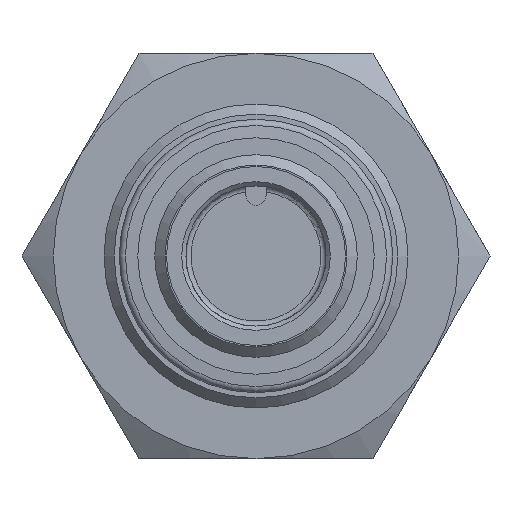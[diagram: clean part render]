
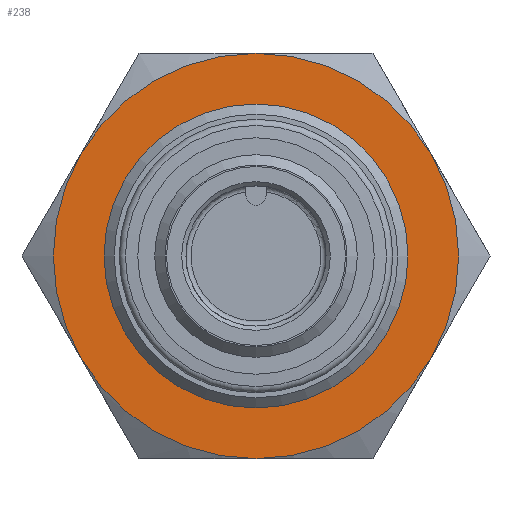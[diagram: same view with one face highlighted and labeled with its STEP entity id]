
A CAD part, left-side view. The second image highlights one B-rep face of the part: STEP entity #238.
In plain terms, the highlighted planar face has unit normal (-1, 0, 0) as drawn and (1, 0, 0) by its records, which use the part's own axes.
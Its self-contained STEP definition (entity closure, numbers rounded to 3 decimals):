
#238 = ADVANCED_FACE( '', ( #405, #406 ), #407, .F. );
#405 = FACE_BOUND( '', #585, .T. );
#406 = FACE_OUTER_BOUND( '', #586, .T. );
#407 = PLANE( '', #587 );
#585 = EDGE_LOOP( '', ( #956 ) );
#586 = EDGE_LOOP( '', ( #957, #958, #959, #960, #961, #962 ) );
#587 = AXIS2_PLACEMENT_3D( '', #963, #964, #965 );
#956 = ORIENTED_EDGE( '', *, *, #1130, .F. );
#957 = ORIENTED_EDGE( '', *, *, #1131, .T. );
#958 = ORIENTED_EDGE( '', *, *, #1126, .T. );
#959 = ORIENTED_EDGE( '', *, *, #1129, .T. );
#960 = ORIENTED_EDGE( '', *, *, #1125, .T. );
#961 = ORIENTED_EDGE( '', *, *, #1132, .T. );
#962 = ORIENTED_EDGE( '', *, *, #1128, .T. );
#963 = CARTESIAN_POINT( '', ( 4., 12., 0. ) );
#964 = DIRECTION( '', ( -1., 0., 0. ) );
#965 = DIRECTION( '', ( 0., 0., 1. ) );
#1125 = EDGE_CURVE( '', #1268, #1303, #1305, .T. );
#1126 = EDGE_CURVE( '', #1285, #1278, #1306, .T. );
#1128 = EDGE_CURVE( '', #1307, #1295, #1309, .T. );
#1129 = EDGE_CURVE( '', #1278, #1268, #1310, .T. );
#1130 = EDGE_CURVE( '', #1311, #1311, #1312, .T. );
#1131 = EDGE_CURVE( '', #1295, #1285, #1313, .T. );
#1132 = EDGE_CURVE( '', #1303, #1307, #1314, .T. );
#1268 = VERTEX_POINT( '', #1880 );
#1278 = VERTEX_POINT( '', #1927 );
#1285 = VERTEX_POINT( '', #1954 );
#1295 = VERTEX_POINT( '', #1989 );
#1303 = VERTEX_POINT( '', #2022 );
#1305 = CIRCLE( '', #2029, 12. );
#1306 = CIRCLE( '', #2030, 12. );
#1307 = VERTEX_POINT( '', #2031 );
#1309 = CIRCLE( '', #2040, 12. );
#1310 = CIRCLE( '', #2041, 12. );
#1311 = VERTEX_POINT( '', #2042 );
#1312 = CIRCLE( '', #2043, 9. );
#1313 = CIRCLE( '', #2044, 12. );
#1314 = CIRCLE( '', #2045, 12. );
#1880 = CARTESIAN_POINT( '', ( 4., 0., 12. ) );
#1927 = CARTESIAN_POINT( '', ( 4., 10.392, 6. ) );
#1954 = CARTESIAN_POINT( '', ( 4., 10.392, -6. ) );
#1989 = CARTESIAN_POINT( '', ( 4., 0., -12. ) );
#2022 = CARTESIAN_POINT( '', ( 4., -10.392, 6. ) );
#2029 = AXIS2_PLACEMENT_3D( '', #2225, #2226, #2227 );
#2030 = AXIS2_PLACEMENT_3D( '', #2228, #2229, #2230 );
#2031 = CARTESIAN_POINT( '', ( 4., -10.392, -6. ) );
#2040 = AXIS2_PLACEMENT_3D( '', #2231, #2232, #2233 );
#2041 = AXIS2_PLACEMENT_3D( '', #2234, #2235, #2236 );
#2042 = CARTESIAN_POINT( '', ( 4., 0., -9. ) );
#2043 = AXIS2_PLACEMENT_3D( '', #2237, #2238, #2239 );
#2044 = AXIS2_PLACEMENT_3D( '', #2240, #2241, #2242 );
#2045 = AXIS2_PLACEMENT_3D( '', #2243, #2244, #2245 );
#2225 = CARTESIAN_POINT( '', ( 4., 0., 0. ) );
#2226 = DIRECTION( '', ( 1., 0., 0. ) );
#2227 = DIRECTION( '', ( 0., 0., -1. ) );
#2228 = CARTESIAN_POINT( '', ( 4., 0., 0. ) );
#2229 = DIRECTION( '', ( 1., 0., 0. ) );
#2230 = DIRECTION( '', ( 0., 0., -1. ) );
#2231 = CARTESIAN_POINT( '', ( 4., 0., 0. ) );
#2232 = DIRECTION( '', ( 1., 0., 0. ) );
#2233 = DIRECTION( '', ( 0., 0., -1. ) );
#2234 = CARTESIAN_POINT( '', ( 4., 0., 0. ) );
#2235 = DIRECTION( '', ( 1., 0., 0. ) );
#2236 = DIRECTION( '', ( 0., 0., -1. ) );
#2237 = CARTESIAN_POINT( '', ( 4., 0., 0. ) );
#2238 = DIRECTION( '', ( 1., 0., 0. ) );
#2239 = DIRECTION( '', ( 0., 0., -1. ) );
#2240 = CARTESIAN_POINT( '', ( 4., 0., 0. ) );
#2241 = DIRECTION( '', ( 1., 0., 0. ) );
#2242 = DIRECTION( '', ( 0., 0., -1. ) );
#2243 = CARTESIAN_POINT( '', ( 4., 0., 0. ) );
#2244 = DIRECTION( '', ( 1., 0., 0. ) );
#2245 = DIRECTION( '', ( 0., 0., -1. ) );
